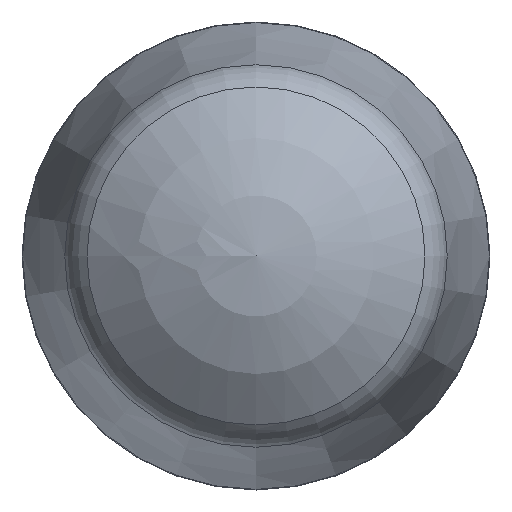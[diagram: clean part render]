
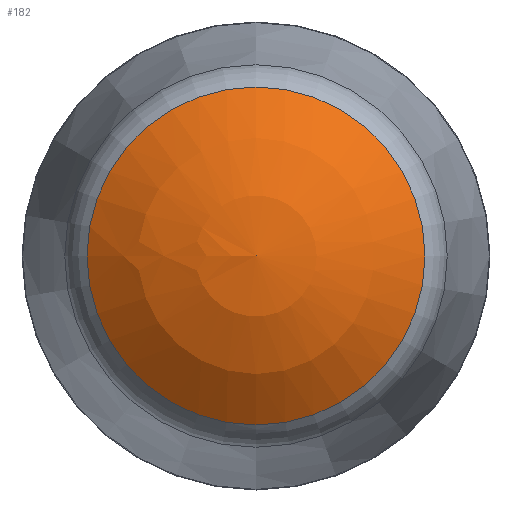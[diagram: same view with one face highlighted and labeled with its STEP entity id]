
A CAD part, front view. The second image highlights one B-rep face of the part: STEP entity #182.
In plain terms, the highlighted spherical face has radius 6 mm.
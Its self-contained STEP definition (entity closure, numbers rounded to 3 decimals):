
#182 = ADVANCED_FACE( '', ( #217, #218 ), #219, .T. );
#217 = FACE_BOUND( '', #293, .T. );
#218 = FACE_OUTER_BOUND( '', #294, .T. );
#219 = SPHERICAL_SURFACE( '', #295, 6. );
#293 = VERTEX_LOOP( '', #370 );
#294 = EDGE_LOOP( '', ( #371 ) );
#295 = AXIS2_PLACEMENT_3D( '', #372, #373, #374 );
#370 = VERTEX_POINT( '', #568 );
#371 = ORIENTED_EDGE( '', *, *, #567, .T. );
#372 = CARTESIAN_POINT( '', ( 0., 6., 0. ) );
#373 = DIRECTION( '', ( 0., -1., 0. ) );
#374 = DIRECTION( '', ( -1., 0., 0. ) );
#567 = EDGE_CURVE( '', #623, #623, #624, .T. );
#568 = CARTESIAN_POINT( '', ( 0., 0., 0. ) );
#623 = VERTEX_POINT( '', #711 );
#624 = CIRCLE( '', #712, 3.876 );
#711 = CARTESIAN_POINT( '', ( 0., 1.42, -3.876 ) );
#712 = AXIS2_PLACEMENT_3D( '', #910, #911, #912 );
#910 = CARTESIAN_POINT( '', ( 0., 1.42, 0. ) );
#911 = DIRECTION( '', ( 0., -1., 0. ) );
#912 = DIRECTION( '', ( 0., 0., -1. ) );
